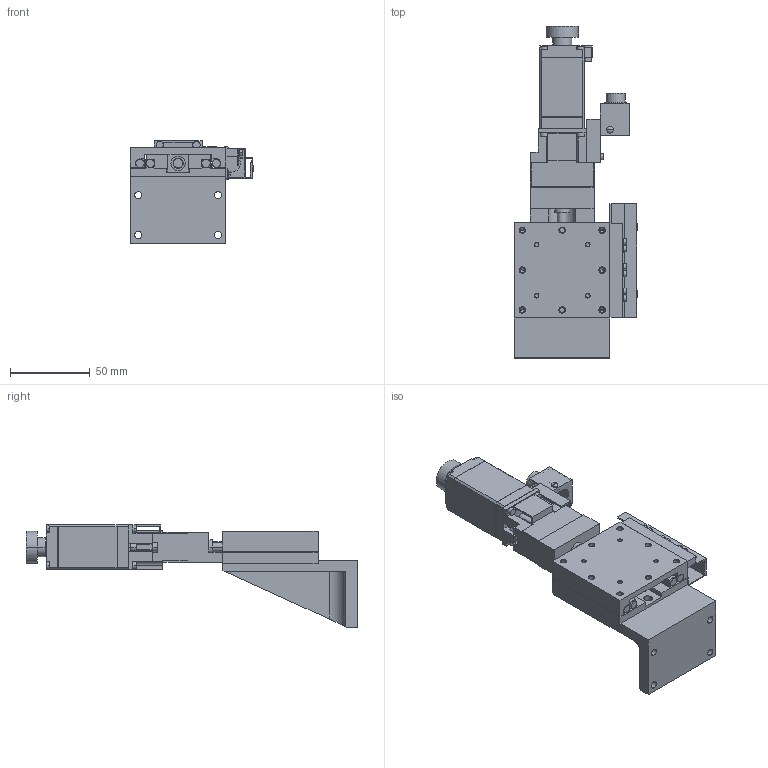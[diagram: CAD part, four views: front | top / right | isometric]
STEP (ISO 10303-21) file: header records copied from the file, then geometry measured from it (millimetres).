
FILE_DESCRIPTION(('STEP AP203'),'1');
FILE_NAME('C:/3D-Trans/3D_PZG615M-R□-D4+241108.step','2024-11-08T02:46:46',(' '),(' '),'Spatial InterOp 3D',' ',' ');
FILE_SCHEMA(('CONFIG_CONTROL_DESIGN'));
Length unit declared in the file: millimetre
Products named in the file (7): 1; 2; 3; 4; 5; 6; 7
Bounding box: 77.4 x 208 x 64 mm (x, y, z)
Volume: 195389.7 mm3; surface area: 79499.4 mm2
Topology: 7 solids, 8 shells, 771 faces, 1995 edges, 1274 vertices
Faces by surface type: plane 458, cylinder 245, cone 64, sphere 4
Entity records: 23881 total; most frequent: CARTESIAN_POINT 4211, DIRECTION 4121, ORIENTED_EDGE 3942, EDGE_CURVE 1971, AXIS2_PLACEMENT_3D 1380, LINE 1361, VECTOR 1361, VERTEX_POINT 1274
